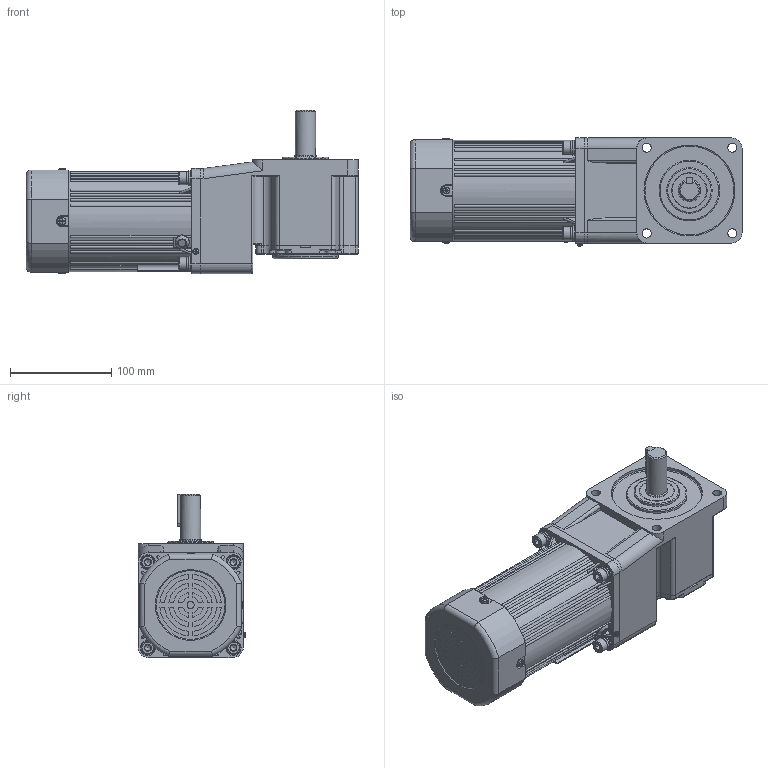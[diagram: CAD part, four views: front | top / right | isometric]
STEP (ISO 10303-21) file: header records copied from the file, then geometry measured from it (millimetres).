
FILE_DESCRIPTION(/* description */ (''),/* implementation_level */ '2;1');
FILE_NAME(/* name */ '100+直角中实-调速风叶-160-250W 新版.stp',/* time_stamp */ '2025-03-25T15:41:17+08:00',/* author */ (''),/* organization */ (''),/* preprocessor_version */ 'ST-DEVELOPER v18.102',/* originating_system */ 'SIEMENS PLM Software NX 2027',/* authorisation */ '');
FILE_SCHEMA (('AP203_CONFIGURATION_CONTROLLED_3D_DESIGN_OF_MECHANICAL_PARTS_AND_ASSEMBLIES_MIM_LF { 1 0 10303 403 2 1 2}'));
Length unit declared in the file: millimetre
Products named in the file (1): 6RK200CC·RF_6GU3-750K-C·15L_stp_M066166857A1nlr7
Bounding box: 328.5 x 106.83 x 161.53 mm (x, y, z)
Volume: 2887583.2 mm3; surface area: 212978.9 mm2
Topology: 16 solids, 16 shells, 981 faces, 2438 edges, 1549 vertices
Faces by surface type: plane 460, cylinder 294, bspline 101, torus 60, cone 52, sphere 14
Full cylindrical faces by diameter (mm): 2.6 x1, 3.2 x1, 4.55 x1, 5.1 x1, 5.15 x1, 6 x9, 6.8 x8, 7 x1, 7.5 x1, 7.76 x4, 8.4 x4, 9 x8, 9.5 x4, 13 x4, 14 x4, 15 x4, 15.5 x1, 19 x1, 20 x1, 22 x1, 30 x1, 35 x1, 45 x1, 60 x1, 65 x1, 77 x1, 89 x1, 90 x1, 96.5 x1, 97 x1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
Entity records: 29341 total; most frequent: CARTESIAN_POINT 6998, ORIENTED_EDGE 4506, DIRECTION 4471, EDGE_CURVE 2253, AXIS2_PLACEMENT_3D 1766, VERTEX_POINT 1493, EDGE_LOOP 1196, ADVANCED_FACE 981
